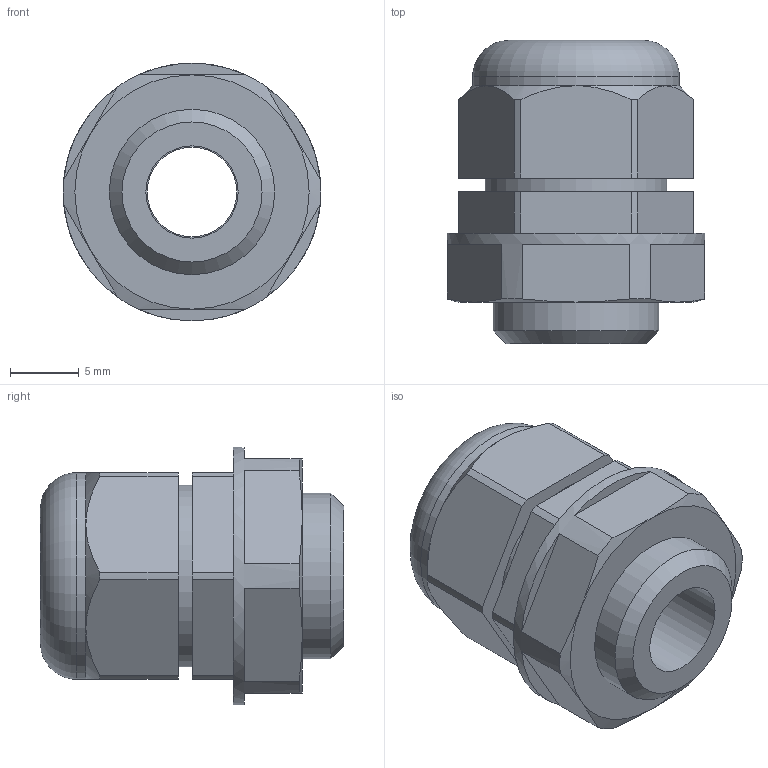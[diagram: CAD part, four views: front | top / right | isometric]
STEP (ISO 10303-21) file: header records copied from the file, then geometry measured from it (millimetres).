
FILE_DESCRIPTION( ( 'STEP AP214' ), '1' );
FILE_NAME( 'p:/temp/worker_149/temp/exporttempdir_5004_5_mEpdJ/format_0/2411.601(6.5).stp', '2020-06-09T13:40:49', ( 'License CC BY-ND 4.0' ), ( 'CADENAS' ), ' ', 'PARTsolutions', ' ' );
FILE_SCHEMA( ( 'AUTOMOTIVE_DESIGN { 1 0 10303 214 1 1 1 1 }' ) );
Length unit declared in the file: millimetre
Products named in the file (3): 2411.601(6.5); _2411.601(6.5)_01; _2411.601_02
Assembly tree (2 placements, depth 2):
  2411.601(6.5)
    _2411.601(6.5)_01
    _2411.601_02
Bounding box: 18.7 x 22 x 18.7 mm (x, y, z)
Volume: 3462.9 mm3; surface area: 2638.8 mm2
Topology: 2 solids, 2 shells, 70 faces, 166 edges, 105 vertices
Faces by surface type: plane 33, cylinder 20, cone 16, torus 1
Full cylindrical faces by diameter (mm): 6.5 x1, 6.7 x2, 10.376 x1, 12 x1, 13.2 x1, 15 x1, 18.7 x1
Entity records: 2628 total; most frequent: CARTESIAN_POINT 443, DIRECTION 340, ORIENTED_EDGE 302, EDGE_CURVE 151, AXIS2_PLACEMENT_3D 140, VERTEX_POINT 103, EDGE_LOOP 92, FACE_OUTER_BOUND 79
